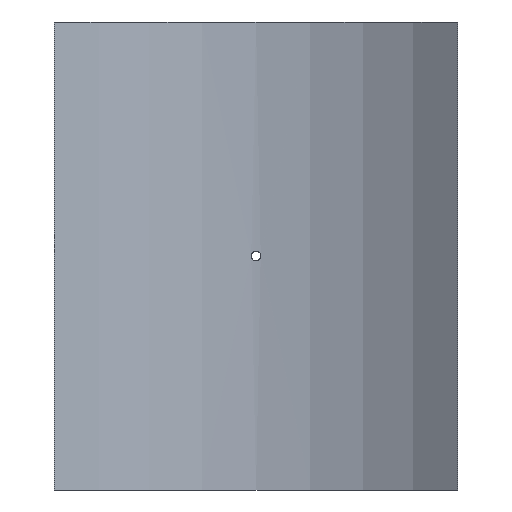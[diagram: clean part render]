
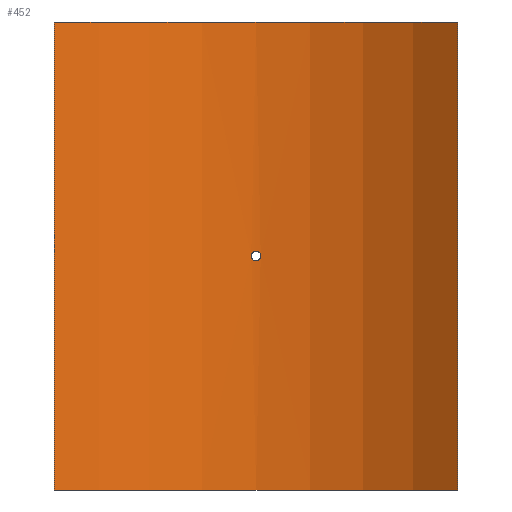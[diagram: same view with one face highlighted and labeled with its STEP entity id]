
A CAD part, front view. The second image highlights one B-rep face of the part: STEP entity #452.
In plain terms, the highlighted cylindrical face has radius 315 mm (diameter 630 mm), a partial arc.
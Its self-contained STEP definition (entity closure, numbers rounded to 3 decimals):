
#19=B_SPLINE_CURVE_WITH_KNOTS('',3,(#788,#789,#790,#791,#792,#793,#794,
#795,#796,#797,#798,#799,#800,#801,#802,#803,#804,#805,#806,#807,#808,#809,
#810,#811,#812,#813,#814,#815,#816,#817,#818,#819,#820,#821),
 .UNSPECIFIED.,.T.,.F.,(4,2,2,2,2,2,2,2,2,2,2,2,2,2,2,2,4),(0.,0.181,
0.362,0.542,0.723,0.904,
1.085,1.266,1.447,1.627,1.808,
1.989,2.17,2.351,2.531,2.712,
2.893),.UNSPECIFIED.);
#43=LINE('',#1065,#62);
#44=LINE('',#1068,#63);
#62=VECTOR('',#661,10.);
#63=VECTOR('',#664,10.);
#76=CYLINDRICAL_SURFACE('',#530,315.);
#88=FACE_BOUND('',#167,.T.);
#127=FACE_OUTER_BOUND('',#166,.T.);
#166=EDGE_LOOP('',(#405,#406,#407,#408));
#167=EDGE_LOOP('',(#409));
#201=CIRCLE('',#529,315.);
#202=CIRCLE('',#531,315.);
#219=VERTEX_POINT('',#786);
#242=VERTEX_POINT('',#1058);
#243=VERTEX_POINT('',#1060);
#244=VERTEX_POINT('',#1064);
#245=VERTEX_POINT('',#1066);
#267=EDGE_CURVE('',#219,#219,#19,.T.);
#299=EDGE_CURVE('',#242,#243,#201,.T.);
#301=EDGE_CURVE('',#244,#242,#43,.T.);
#302=EDGE_CURVE('',#245,#244,#202,.T.);
#303=EDGE_CURVE('',#245,#243,#44,.T.);
#405=ORIENTED_EDGE('',*,*,#301,.F.);
#406=ORIENTED_EDGE('',*,*,#302,.F.);
#407=ORIENTED_EDGE('',*,*,#303,.T.);
#408=ORIENTED_EDGE('',*,*,#299,.F.);
#409=ORIENTED_EDGE('',*,*,#267,.T.);
#452=ADVANCED_FACE('',(#127,#88),#76,.F.);
#529=AXIS2_PLACEMENT_3D('',#1061,#656,#657);
#530=AXIS2_PLACEMENT_3D('',#1063,#659,#660);
#531=AXIS2_PLACEMENT_3D('',#1067,#662,#663);
#656=DIRECTION('center_axis',(0.,0.,1.));
#657=DIRECTION('ref_axis',(0.643,0.766,0.));
#659=DIRECTION('center_axis',(0.,0.,1.));
#660=DIRECTION('ref_axis',(0.643,0.766,0.));
#661=DIRECTION('',(0.,0.,-1.));
#662=DIRECTION('center_axis',(0.,0.,-1.));
#663=DIRECTION('ref_axis',(0.643,0.766,0.));
#664=DIRECTION('',(0.,0.,-1.));
#786=CARTESIAN_POINT('',(4.8,314.963,0.));
#788=CARTESIAN_POINT('Ctrl Pts',(4.8,314.963,0.));
#789=CARTESIAN_POINT('Ctrl Pts',(4.8,314.963,-0.603));
#790=CARTESIAN_POINT('Ctrl Pts',(4.68,314.965,-1.246));
#791=CARTESIAN_POINT('Ctrl Pts',(4.19,314.972,-2.428));
#792=CARTESIAN_POINT('Ctrl Pts',(3.82,314.977,-2.968));
#793=CARTESIAN_POINT('Ctrl Pts',(2.968,314.986,-3.82));
#794=CARTESIAN_POINT('Ctrl Pts',(2.428,314.991,-4.19));
#795=CARTESIAN_POINT('Ctrl Pts',(1.246,314.998,-4.68));
#796=CARTESIAN_POINT('Ctrl Pts',(0.603,315.,-4.8));
#797=CARTESIAN_POINT('Ctrl Pts',(-0.603,315.,-4.8));
#798=CARTESIAN_POINT('Ctrl Pts',(-1.246,314.998,-4.68));
#799=CARTESIAN_POINT('Ctrl Pts',(-2.428,314.991,-4.19));
#800=CARTESIAN_POINT('Ctrl Pts',(-2.968,314.986,-3.82));
#801=CARTESIAN_POINT('Ctrl Pts',(-3.82,314.977,-2.968));
#802=CARTESIAN_POINT('Ctrl Pts',(-4.19,314.972,-2.428));
#803=CARTESIAN_POINT('Ctrl Pts',(-4.68,314.965,-1.246));
#804=CARTESIAN_POINT('Ctrl Pts',(-4.8,314.963,-0.603));
#805=CARTESIAN_POINT('Ctrl Pts',(-4.8,314.963,0.603));
#806=CARTESIAN_POINT('Ctrl Pts',(-4.68,314.965,1.246));
#807=CARTESIAN_POINT('Ctrl Pts',(-4.19,314.972,2.428));
#808=CARTESIAN_POINT('Ctrl Pts',(-3.82,314.977,2.968));
#809=CARTESIAN_POINT('Ctrl Pts',(-2.968,314.986,3.82));
#810=CARTESIAN_POINT('Ctrl Pts',(-2.428,314.991,4.19));
#811=CARTESIAN_POINT('Ctrl Pts',(-1.246,314.998,4.68));
#812=CARTESIAN_POINT('Ctrl Pts',(-0.603,315.,4.8));
#813=CARTESIAN_POINT('Ctrl Pts',(0.603,315.,4.8));
#814=CARTESIAN_POINT('Ctrl Pts',(1.246,314.998,4.68));
#815=CARTESIAN_POINT('Ctrl Pts',(2.428,314.991,4.19));
#816=CARTESIAN_POINT('Ctrl Pts',(2.968,314.986,3.82));
#817=CARTESIAN_POINT('Ctrl Pts',(3.82,314.977,2.968));
#818=CARTESIAN_POINT('Ctrl Pts',(4.19,314.972,2.428));
#819=CARTESIAN_POINT('Ctrl Pts',(4.68,314.965,1.246));
#820=CARTESIAN_POINT('Ctrl Pts',(4.8,314.963,0.603));
#821=CARTESIAN_POINT('Ctrl Pts',(4.8,314.963,0.));
#1058=CARTESIAN_POINT('',(202.5,241.286,-235.));
#1060=CARTESIAN_POINT('',(-202.5,241.286,-235.));
#1061=CARTESIAN_POINT('Origin',(0.,0.,
-235.));
#1063=CARTESIAN_POINT('Origin',(0.,0.,
0.));
#1064=CARTESIAN_POINT('',(202.5,241.286,235.));
#1065=CARTESIAN_POINT('',(202.5,241.286,0.));
#1066=CARTESIAN_POINT('',(-202.5,241.286,235.));
#1067=CARTESIAN_POINT('Origin',(0.,0.,
235.));
#1068=CARTESIAN_POINT('',(-202.5,241.286,0.));
